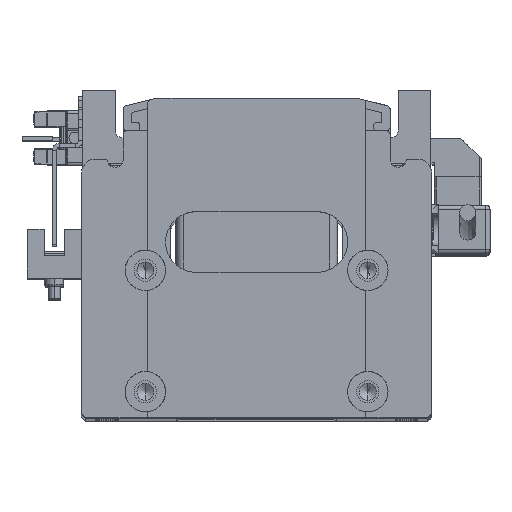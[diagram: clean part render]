
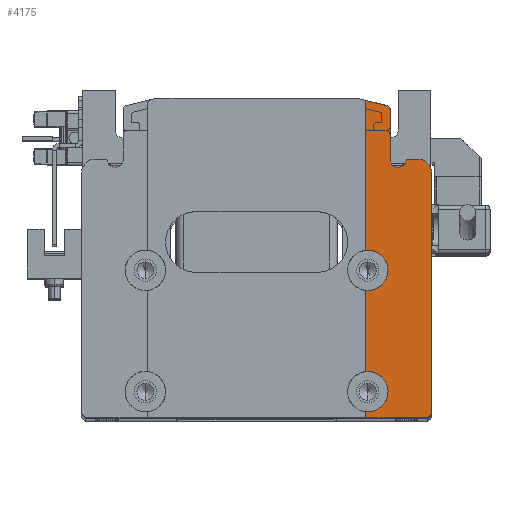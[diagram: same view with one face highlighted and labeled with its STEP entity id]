
A CAD part, top view. The second image highlights one B-rep face of the part: STEP entity #4175.
In plain terms, the highlighted planar face has unit normal (0, 0, 1).
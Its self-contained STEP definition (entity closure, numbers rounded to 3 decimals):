
#53 = ORIENTED_EDGE ( 'NONE', *, *, #33695, .T. ) ;
#1188 = EDGE_CURVE ( 'NONE', #39431, #26423, #21628, .T. ) ;
#1236 = LINE ( 'NONE', #19242, #7868 ) ;
#1556 = CARTESIAN_POINT ( 'NONE',  ( 43.3, 39.5, 12.5 ) ) ;
#1747 = EDGE_CURVE ( 'NONE', #31139, #31474, #29455, .T. ) ;
#1832 = CIRCLE ( 'NONE', #41856, 1. ) ;
#2316 = ORIENTED_EDGE ( 'NONE', *, *, #9848, .T. ) ;
#2387 = EDGE_CURVE ( 'NONE', #30792, #39431, #38570, .T. ) ;
#3772 = ORIENTED_EDGE ( 'NONE', *, *, #38645, .T. ) ;
#3846 = CARTESIAN_POINT ( 'NONE',  ( 32.243, 37.689, 12.5 ) ) ;
#4168 = CARTESIAN_POINT ( 'NONE',  ( 27.5, -33., 12.5 ) ) ;
#4175 = ADVANCED_FACE ( 'NONE', ( #29839 ), #21622, .F. ) ;
#4183 = CARTESIAN_POINT ( 'NONE',  ( 39.8, 21., 12.5 ) ) ;
#4317 = DIRECTION ( 'NONE',  ( 0., 1., 0. ) ) ;
#4338 = CARTESIAN_POINT ( 'NONE',  ( 32.5, -33., 12.5 ) ) ;
#4533 = ORIENTED_EDGE ( 'NONE', *, *, #18299, .T. ) ;
#4804 = CARTESIAN_POINT ( 'NONE',  ( 27., -28.025, 12.5 ) ) ;
#5322 = CARTESIAN_POINT ( 'NONE',  ( 27.5, -3., 12.5 ) ) ;
#5393 = CARTESIAN_POINT ( 'NONE',  ( 27., -7.975, 12.5 ) ) ;
#5413 = VECTOR ( 'NONE', #32906, 1000. ) ;
#5597 = DIRECTION ( 'NONE',  ( 0., 1., 0. ) ) ;
#6209 = DIRECTION ( 'NONE',  ( 0., 0., 1. ) ) ;
#6342 = ORIENTED_EDGE ( 'NONE', *, *, #37352, .T. ) ;
#6464 = DIRECTION ( 'NONE',  ( -1., 0., 0. ) ) ;
#6695 = CARTESIAN_POINT ( 'NONE',  ( 32., 36.719, 12.5 ) ) ;
#6850 = EDGE_CURVE ( 'NONE', #20259, #31139, #40870, .T. ) ;
#7211 = CARTESIAN_POINT ( 'NONE',  ( 27., 39.5, 12.5 ) ) ;
#7593 = VERTEX_POINT ( 'NONE', #34894 ) ;
#7611 = VERTEX_POINT ( 'NONE', #4338 ) ;
#7636 = ORIENTED_EDGE ( 'NONE', *, *, #1747, .T. ) ;
#7868 = VECTOR ( 'NONE', #4317, 1000. ) ;
#7907 = EDGE_CURVE ( 'NONE', #41861, #14334, #24969, .T. ) ;
#8046 = VECTOR ( 'NONE', #40705, 1000. ) ;
#8068 = DIRECTION ( 'NONE',  ( -1., 0., 0. ) ) ;
#8088 = DIRECTION ( 'NONE',  ( -1., 0., 0. ) ) ;
#8455 = DIRECTION ( 'NONE',  ( -1., 0., 0. ) ) ;
#8943 = VECTOR ( 'NONE', #5597, 1000. ) ;
#9057 = DIRECTION ( 'NONE',  ( 0., 0., -1. ) ) ;
#9661 = DIRECTION ( 'NONE',  ( -1., 0., 0. ) ) ;
#9848 = EDGE_CURVE ( 'NONE', #26423, #49397, #14793, .T. ) ;
#10691 = CARTESIAN_POINT ( 'NONE',  ( 26.243, 39.189, 12.5 ) ) ;
#11501 = CARTESIAN_POINT ( 'NONE',  ( 27., 1.975, 12.5 ) ) ;
#11678 = EDGE_CURVE ( 'NONE', #31474, #27885, #48430, .T. ) ;
#12116 = AXIS2_PLACEMENT_3D ( 'NONE', #5322, #9057, #36724 ) ;
#12628 = EDGE_LOOP ( 'NONE', ( #19331, #32956, #31119, #31954, #2316, #53, #4533, #35280, #39900, #46805, #43897, #6342, #40293, #7636, #36701, #3772, #31266 ) ) ;
#14334 = VERTEX_POINT ( 'NONE', #46690 ) ;
#14608 = CARTESIAN_POINT ( 'NONE',  ( 0., 24.5, 12.5 ) ) ;
#14755 = DIRECTION ( 'NONE',  ( 0., 0., -1. ) ) ;
#14793 = LINE ( 'NONE', #7211, #47457 ) ;
#14968 = CARTESIAN_POINT ( 'NONE',  ( 43.3, -38.5, 12.5 ) ) ;
#15171 = DIRECTION ( 'NONE',  ( 0., -1., 0. ) ) ;
#15382 = CIRCLE ( 'NONE', #19886, 5. ) ;
#15836 = CARTESIAN_POINT ( 'NONE',  ( 43.3, 21., 12.5 ) ) ;
#16101 = CIRCLE ( 'NONE', #38365, 5. ) ;
#16394 = DIRECTION ( 'NONE',  ( 0., 0., -1. ) ) ;
#17033 = DIRECTION ( 'NONE',  ( 1., 0., 0. ) ) ;
#17623 = DIRECTION ( 'NONE',  ( 0., 0., -1. ) ) ;
#18299 = EDGE_CURVE ( 'NONE', #26057, #31040, #16101, .T. ) ;
#18409 = AXIS2_PLACEMENT_3D ( 'NONE', #39531, #31563, #8455 ) ;
#18891 = AXIS2_PLACEMENT_3D ( 'NONE', #26171, #14755, #38008 ) ;
#19242 = CARTESIAN_POINT ( 'NONE',  ( 33., 0., 12.5 ) ) ;
#19326 = LINE ( 'NONE', #25000, #5413 ) ;
#19331 = ORIENTED_EDGE ( 'NONE', *, *, #27287, .T. ) ;
#19526 = CARTESIAN_POINT ( 'NONE',  ( 39.8, 24.5, 12.5 ) ) ;
#19886 = AXIS2_PLACEMENT_3D ( 'NONE', #4168, #16394, #8068 ) ;
#20259 = VERTEX_POINT ( 'NONE', #35261 ) ;
#20863 = CARTESIAN_POINT ( 'NONE',  ( 27., 38.219, 12.5 ) ) ;
#20892 = VECTOR ( 'NONE', #38047, 1000. ) ;
#21165 = VECTOR ( 'NONE', #17033, 1000. ) ;
#21326 = CARTESIAN_POINT ( 'NONE',  ( 10.765, 43.059, 12.5 ) ) ;
#21622 = PLANE ( 'NONE',  #45979 ) ;
#21628 = CIRCLE ( 'NONE', #18409, 1. ) ;
#21673 = DIRECTION ( 'NONE',  ( 0., 0., -1. ) ) ;
#22903 = EDGE_CURVE ( 'NONE', #31040, #28222, #19326, .T. ) ;
#24969 = LINE ( 'NONE', #36453, #8046 ) ;
#25000 = CARTESIAN_POINT ( 'NONE',  ( 27., 39.5, 12.5 ) ) ;
#25593 = EDGE_CURVE ( 'NONE', #28222, #7611, #15382, .T. ) ;
#25679 = CARTESIAN_POINT ( 'NONE',  ( 27.5, -3., 12.5 ) ) ;
#25988 = CIRCLE ( 'NONE', #18891, 2. ) ;
#26057 = VERTEX_POINT ( 'NONE', #41832 ) ;
#26171 = CARTESIAN_POINT ( 'NONE',  ( 35., 24.5, 12.5 ) ) ;
#26423 = VERTEX_POINT ( 'NONE', #20863 ) ;
#26510 = CIRCLE ( 'NONE', #12116, 5. ) ;
#27040 = DIRECTION ( 'NONE',  ( 0., 0., -1. ) ) ;
#27287 = EDGE_CURVE ( 'NONE', #7593, #31036, #1236, .T. ) ;
#27883 = CARTESIAN_POINT ( 'NONE',  ( 37., 24.5, 12.5 ) ) ;
#27885 = VERTEX_POINT ( 'NONE', #19526 ) ;
#28222 = VERTEX_POINT ( 'NONE', #4804 ) ;
#29216 = CARTESIAN_POINT ( 'NONE',  ( 0., 0., 12.5 ) ) ;
#29455 = LINE ( 'NONE', #1556, #8943 ) ;
#29839 = FACE_OUTER_BOUND ( 'NONE', #12628, .T. ) ;
#30792 = VERTEX_POINT ( 'NONE', #3846 ) ;
#31036 = VERTEX_POINT ( 'NONE', #40028 ) ;
#31040 = VERTEX_POINT ( 'NONE', #5393 ) ;
#31119 = ORIENTED_EDGE ( 'NONE', *, *, #2387, .T. ) ;
#31139 = VERTEX_POINT ( 'NONE', #32698 ) ;
#31266 = ORIENTED_EDGE ( 'NONE', *, *, #39400, .T. ) ;
#31381 = LINE ( 'NONE', #32142, #21165 ) ;
#31426 = DIRECTION ( 'NONE',  ( -1., 0., 0. ) ) ;
#31474 = VERTEX_POINT ( 'NONE', #15836 ) ;
#31563 = DIRECTION ( 'NONE',  ( 0., 0., -1. ) ) ;
#31954 = ORIENTED_EDGE ( 'NONE', *, *, #1188, .T. ) ;
#32142 = CARTESIAN_POINT ( 'NONE',  ( 43.3, -39.5, 12.5 ) ) ;
#32698 = CARTESIAN_POINT ( 'NONE',  ( 43.3, -38.5, 12.5 ) ) ;
#32906 = DIRECTION ( 'NONE',  ( 0., -1., 0. ) ) ;
#32956 = ORIENTED_EDGE ( 'NONE', *, *, #33209, .T. ) ;
#33209 = EDGE_CURVE ( 'NONE', #31036, #30792, #1832, .T. ) ;
#33589 = LINE ( 'NONE', #14608, #45164 ) ;
#33695 = EDGE_CURVE ( 'NONE', #49397, #26057, #26510, .T. ) ;
#34265 = VECTOR ( 'NONE', #40584, 1000. ) ;
#34894 = CARTESIAN_POINT ( 'NONE',  ( 33., 24.5, 12.5 ) ) ;
#35261 = CARTESIAN_POINT ( 'NONE',  ( 42.3, -39.5, 12.5 ) ) ;
#35280 = ORIENTED_EDGE ( 'NONE', *, *, #22903, .T. ) ;
#36453 = CARTESIAN_POINT ( 'NONE',  ( 27., 39.5, 12.5 ) ) ;
#36701 = ORIENTED_EDGE ( 'NONE', *, *, #11678, .T. ) ;
#36724 = DIRECTION ( 'NONE',  ( -1., 0., 0. ) ) ;
#36937 = DIRECTION ( 'NONE',  ( -1., 0., 0. ) ) ;
#37352 = EDGE_CURVE ( 'NONE', #14334, #20259, #31381, .T. ) ;
#37947 = AXIS2_PLACEMENT_3D ( 'NONE', #50070, #27040, #31426 ) ;
#38008 = DIRECTION ( 'NONE',  ( -1., 0., 0. ) ) ;
#38047 = DIRECTION ( 'NONE',  ( 0.707, 0.707, 0. ) ) ;
#38365 = AXIS2_PLACEMENT_3D ( 'NONE', #25679, #21673, #6464 ) ;
#38500 = DIRECTION ( 'NONE',  ( 0., 0., 1. ) ) ;
#38570 = LINE ( 'NONE', #21326, #34265 ) ;
#38645 = EDGE_CURVE ( 'NONE', #27885, #42550, #33589, .T. ) ;
#39400 = EDGE_CURVE ( 'NONE', #42550, #7593, #25988, .T. ) ;
#39431 = VERTEX_POINT ( 'NONE', #10691 ) ;
#39531 = CARTESIAN_POINT ( 'NONE',  ( 26., 38.219, 12.5 ) ) ;
#39900 = ORIENTED_EDGE ( 'NONE', *, *, #25593, .T. ) ;
#40028 = CARTESIAN_POINT ( 'NONE',  ( 33., 36.719, 12.5 ) ) ;
#40293 = ORIENTED_EDGE ( 'NONE', *, *, #6850, .T. ) ;
#40584 = DIRECTION ( 'NONE',  ( -0.97, 0.243, 0. ) ) ;
#40705 = DIRECTION ( 'NONE',  ( 0., -1., 0. ) ) ;
#40870 = LINE ( 'NONE', #14968, #20892 ) ;
#41641 = DIRECTION ( 'NONE',  ( -1., 0., 0. ) ) ;
#41832 = CARTESIAN_POINT ( 'NONE',  ( 32.5, -3., 12.5 ) ) ;
#41856 = AXIS2_PLACEMENT_3D ( 'NONE', #6695, #6209, #36937 ) ;
#41861 = VERTEX_POINT ( 'NONE', #48897 ) ;
#42550 = VERTEX_POINT ( 'NONE', #27883 ) ;
#43897 = ORIENTED_EDGE ( 'NONE', *, *, #7907, .T. ) ;
#43952 = AXIS2_PLACEMENT_3D ( 'NONE', #4183, #38500, #8088 ) ;
#45164 = VECTOR ( 'NONE', #41641, 1000. ) ;
#45979 = AXIS2_PLACEMENT_3D ( 'NONE', #29216, #17623, #9661 ) ;
#46690 = CARTESIAN_POINT ( 'NONE',  ( 27., -39.5, 12.5 ) ) ;
#46805 = ORIENTED_EDGE ( 'NONE', *, *, #47956, .T. ) ;
#47457 = VECTOR ( 'NONE', #15171, 1000. ) ;
#47568 = CIRCLE ( 'NONE', #37947, 5. ) ;
#47956 = EDGE_CURVE ( 'NONE', #7611, #41861, #47568, .T. ) ;
#48430 = CIRCLE ( 'NONE', #43952, 3.5 ) ;
#48897 = CARTESIAN_POINT ( 'NONE',  ( 27., -37.975, 12.5 ) ) ;
#49397 = VERTEX_POINT ( 'NONE', #11501 ) ;
#50070 = CARTESIAN_POINT ( 'NONE',  ( 27.5, -33., 12.5 ) ) ;
